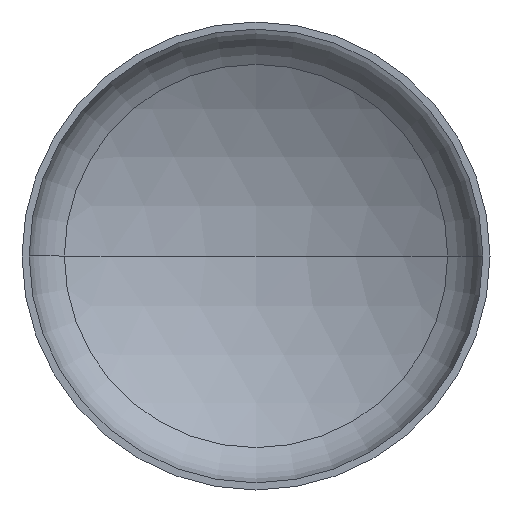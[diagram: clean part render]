
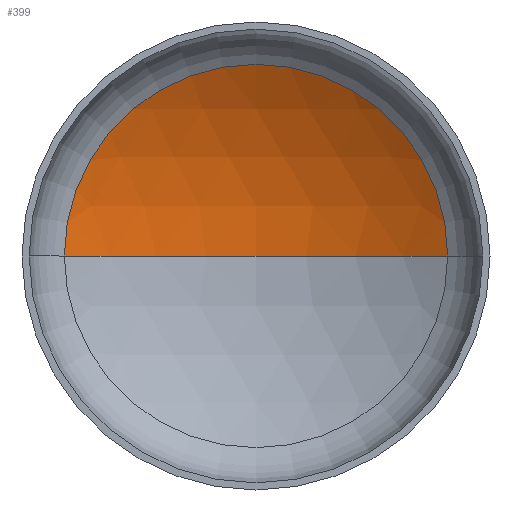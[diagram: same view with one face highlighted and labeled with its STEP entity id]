
A CAD part, front view. The second image highlights one B-rep face of the part: STEP entity #399.
In plain terms, the highlighted spherical face has radius 1040 mm.
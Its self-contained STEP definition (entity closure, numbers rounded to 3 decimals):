
#4 = AXIS2_PLACEMENT_3D ( 'NONE', #255, #173, #300 ) ;
#13 = EDGE_LOOP ( 'NONE', ( #208, #111, #20 ) ) ;
#14 = VERTEX_POINT ( 'NONE', #264 ) ;
#20 = ORIENTED_EDGE ( 'NONE', *, *, #102, .T. ) ;
#32 = DIRECTION ( 'NONE',  ( -1., 0., 0. ) ) ;
#50 = AXIS2_PLACEMENT_3D ( 'NONE', #153, #231, #32 ) ;
#52 = AXIS2_PLACEMENT_3D ( 'NONE', #199, #280, #135 ) ;
#68 = SPHERICAL_SURFACE ( 'NONE', #360, 1040. ) ;
#102 = EDGE_CURVE ( 'NONE', #14, #130, #309, .T. ) ;
#103 = EDGE_CURVE ( 'NONE', #157, #14, #188, .T. ) ;
#111 = ORIENTED_EDGE ( 'NONE', *, *, #103, .T. ) ;
#130 = VERTEX_POINT ( 'NONE', #358 ) ;
#135 = DIRECTION ( 'NONE',  ( 1., 0., 0. ) ) ;
#153 = CARTESIAN_POINT ( 'NONE',  ( 0., -661.595, 0. ) ) ;
#157 = VERTEX_POINT ( 'NONE', #378 ) ;
#171 = DIRECTION ( 'NONE',  ( 0., 0., -1. ) ) ;
#173 = DIRECTION ( 'NONE',  ( 0., 0., 1. ) ) ;
#188 = CIRCLE ( 'NONE', #50, 1040. ) ;
#194 = CARTESIAN_POINT ( 'NONE',  ( 0., -661.595, 0. ) ) ;
#198 = FACE_OUTER_BOUND ( 'NONE', #13, .T. ) ;
#199 = CARTESIAN_POINT ( 'NONE',  ( 0., 231.808, 0. ) ) ;
#208 = ORIENTED_EDGE ( 'NONE', *, *, #350, .F. ) ;
#212 = CIRCLE ( 'NONE', #4, 1040. ) ;
#231 = DIRECTION ( 'NONE',  ( 0., 0., -1. ) ) ;
#255 = CARTESIAN_POINT ( 'NONE',  ( 0., -661.595, 0. ) ) ;
#264 = CARTESIAN_POINT ( 'NONE',  ( 532.381, 231.808, 0. ) ) ;
#280 = DIRECTION ( 'NONE',  ( 0., -1., 0. ) ) ;
#300 = DIRECTION ( 'NONE',  ( 1., 0., 0. ) ) ;
#306 = DIRECTION ( 'NONE',  ( -1., 0., 0. ) ) ;
#309 = CIRCLE ( 'NONE', #52, 532.381 ) ;
#350 = EDGE_CURVE ( 'NONE', #157, #130, #212, .T. ) ;
#358 = CARTESIAN_POINT ( 'NONE',  ( -532.381, 231.808, 0. ) ) ;
#360 = AXIS2_PLACEMENT_3D ( 'NONE', #194, #171, #306 ) ;
#378 = CARTESIAN_POINT ( 'NONE',  ( 0., 378.405, 0. ) ) ;
#399 = ADVANCED_FACE ( 'NONE', ( #198 ), #68, .F. ) ;
